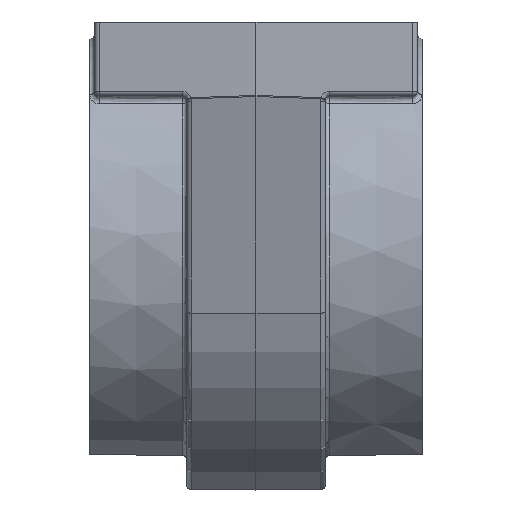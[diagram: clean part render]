
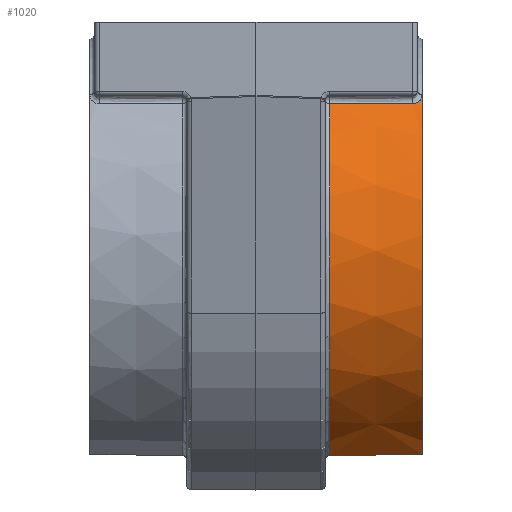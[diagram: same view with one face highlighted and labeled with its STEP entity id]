
A CAD part, left-side view. The second image highlights one B-rep face of the part: STEP entity #1020.
In plain terms, the highlighted conical face has half-angle 0.5 degrees and reference radius 46.5 mm.
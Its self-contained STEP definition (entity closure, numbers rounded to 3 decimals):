
#8 = DIRECTION ( 'NONE',  ( 0., 1., 0. ) ) ;
#89 = CARTESIAN_POINT ( 'NONE',  ( -33.366, -18.658, -11.696 ) ) ;
#128 = CARTESIAN_POINT ( 'NONE',  ( -31.13, -35.991, -9.74 ) ) ;
#132 = EDGE_CURVE ( 'NONE', #383, #3972, #3775, .T. ) ;
#282 = VERTEX_POINT ( 'NONE', #760 ) ;
#344 = VERTEX_POINT ( 'NONE', #2723 ) ;
#370 = EDGE_CURVE ( 'NONE', #282, #3314, #1406, .T. ) ;
#383 = VERTEX_POINT ( 'NONE', #2125 ) ;
#385 = DIRECTION ( 'NONE',  ( 0., -1., 0. ) ) ;
#416 = CARTESIAN_POINT ( 'NONE',  ( -33.197, -32.658, -11.697 ) ) ;
#427 = CARTESIAN_POINT ( 'NONE',  ( -32.046, -35.807, -10.591 ) ) ;
#448 = CARTESIAN_POINT ( 'NONE',  ( -32.9, -35.023, -11.423 ) ) ;
#475 = CARTESIAN_POINT ( 'NONE',  ( -32.653, -35.353, -11.18 ) ) ;
#476 = CARTESIAN_POINT ( 'NONE',  ( 0., -15.991, -44. ) ) ;
#486 = CARTESIAN_POINT ( 'NONE',  ( -33.205, -31.991, -11.697 ) ) ;
#565 = CARTESIAN_POINT ( 'NONE',  ( -15.088, -15.991, -87.947 ) ) ;
#631 = ORIENTED_EDGE ( 'NONE', *, *, #2325, .T. ) ;
#635 = DIRECTION ( 'NONE',  ( 0., 1., 0. ) ) ;
#697 = FACE_OUTER_BOUND ( 'NONE', #2113, .T. ) ;
#760 = CARTESIAN_POINT ( 'NONE',  ( -33.181, -33.991, -11.698 ) ) ;
#806 = CARTESIAN_POINT ( 'NONE',  ( -33.158, -34.313, -11.678 ) ) ;
#819 = CARTESIAN_POINT ( 'NONE',  ( -33.398, -15.991, -11.695 ) ) ;
#855 = CARTESIAN_POINT ( 'NONE',  ( -15.029, -29.33, -87.844 ) ) ;
#1020 = ADVANCED_FACE ( 'NONE', ( #697 ), #2816, .T. ) ;
#1149 = CARTESIAN_POINT ( 'NONE',  ( 0., -35.991, -44. ) ) ;
#1153 = VERTEX_POINT ( 'NONE', #128 ) ;
#1172 = CARTESIAN_POINT ( 'NONE',  ( -33.237, -29.325, -11.697 ) ) ;
#1377 = DIRECTION ( 'NONE',  ( 0., 0., -1. ) ) ;
#1406 = B_SPLINE_CURVE_WITH_KNOTS ( 'NONE', 3,
 ( #1785, #1805, #416, #486, #1172, #3105, #1734, #3087, #89, #819 ),
 .UNSPECIFIED., .F., .F.,
 ( 4, 3, 3, 4 ),
 ( 0., 0.002, 0.01, 0.018 ),
 .UNSPECIFIED. ) ;
#1444 = DIRECTION ( 'NONE',  ( 0., -1., 0. ) ) ;
#1457 = CARTESIAN_POINT ( 'NONE',  ( -31.598, -35.956, -10.169 ) ) ;
#1460 = CARTESIAN_POINT ( 'NONE',  ( -33.398, -15.991, -11.695 ) ) ;
#1497 = CARTESIAN_POINT ( 'NONE',  ( -33.181, -33.991, -11.698 ) ) ;
#1587 = CARTESIAN_POINT ( 'NONE',  ( -15.059, -22.661, -87.896 ) ) ;
#1602 = EDGE_CURVE ( 'NONE', #282, #1153, #2503, .T. ) ;
#1734 = CARTESIAN_POINT ( 'NONE',  ( -33.302, -23.992, -11.696 ) ) ;
#1773 = CARTESIAN_POINT ( 'NONE',  ( -32.559, -35.447, -11.088 ) ) ;
#1785 = CARTESIAN_POINT ( 'NONE',  ( -33.181, -33.991, -11.698 ) ) ;
#1788 = ORIENTED_EDGE ( 'NONE', *, *, #370, .T. ) ;
#1805 = CARTESIAN_POINT ( 'NONE',  ( -33.189, -33.325, -11.697 ) ) ;
#1837 = CARTESIAN_POINT ( 'NONE',  ( -32.823, -35.14, -11.348 ) ) ;
#1844 = ORIENTED_EDGE ( 'NONE', *, *, #3481, .T. ) ;
#1895 = ORIENTED_EDGE ( 'NONE', *, *, #1602, .F. ) ;
#2002 = EDGE_CURVE ( 'NONE', #3261, #1153, #4040, .T. ) ;
#2042 = CIRCLE ( 'NONE', #3001, 46.465 ) ;
#2059 = DIRECTION ( 'NONE',  ( 0., 0., -1. ) ) ;
#2113 = EDGE_LOOP ( 'NONE', ( #2986, #1844, #3676, #1895, #1788, #631, #3647 ) ) ;
#2116 = CARTESIAN_POINT ( 'NONE',  ( -31.13, -35.991, -9.74 ) ) ;
#2125 = CARTESIAN_POINT ( 'NONE',  ( -14.999, -36., -87.793 ) ) ;
#2185 = CARTESIAN_POINT ( 'NONE',  ( 0., -12., 2.5 ) ) ;
#2325 = EDGE_CURVE ( 'NONE', #3314, #344, #2042, .T. ) ;
#2454 = EDGE_CURVE ( 'NONE', #383, #344, #3531, .T. ) ;
#2503 = B_SPLINE_CURVE_WITH_KNOTS ( 'NONE', 3,
 ( #1497, #2738, #806, #3466, #4058, #448, #1837, #475, #1773, #3146, #427, #1457, #3052, #2116 ),
 .UNSPECIFIED., .F., .F.,
 ( 4, 2, 2, 2, 2, 2, 4 ),
 ( 0., 0., 0.001, 0.001, 0.002, 0.003, 0.004 ),
 .UNSPECIFIED. ) ;
#2555 = CARTESIAN_POINT ( 'NONE',  ( -14.999, -36., -87.793 ) ) ;
#2723 = CARTESIAN_POINT ( 'NONE',  ( -15.088, -15.991, -87.947 ) ) ;
#2738 = CARTESIAN_POINT ( 'NONE',  ( -33.179, -34.153, -11.698 ) ) ;
#2816 = CONICAL_SURFACE ( 'NONE', #3926, 46.5, 0.009 ) ;
#2878 = CARTESIAN_POINT ( 'NONE',  ( 0., -36., 2.291 ) ) ;
#2886 = VECTOR ( 'NONE', #3151, 1000. ) ;
#2935 = DIRECTION ( 'NONE',  ( 0., 0., 1. ) ) ;
#2986 = ORIENTED_EDGE ( 'NONE', *, *, #132, .T. ) ;
#3001 = AXIS2_PLACEMENT_3D ( 'NONE', #476, #385, #4097 ) ;
#3052 = CARTESIAN_POINT ( 'NONE',  ( -31.367, -35.991, -9.956 ) ) ;
#3087 = CARTESIAN_POINT ( 'NONE',  ( -33.334, -21.325, -11.696 ) ) ;
#3105 = CARTESIAN_POINT ( 'NONE',  ( -33.269, -26.658, -11.697 ) ) ;
#3146 = CARTESIAN_POINT ( 'NONE',  ( -32.265, -35.691, -10.802 ) ) ;
#3149 = AXIS2_PLACEMENT_3D ( 'NONE', #4018, #8, #1377 ) ;
#3151 = DIRECTION ( 'NONE',  ( 0., 1., 0.009 ) ) ;
#3235 = LINE ( 'NONE', #2185, #2886 ) ;
#3261 = VERTEX_POINT ( 'NONE', #3650 ) ;
#3314 = VERTEX_POINT ( 'NONE', #1460 ) ;
#3466 = CARTESIAN_POINT ( 'NONE',  ( -33.084, -34.617, -11.606 ) ) ;
#3481 = EDGE_CURVE ( 'NONE', #3972, #3261, #3235, .T. ) ;
#3531 = B_SPLINE_CURVE_WITH_KNOTS ( 'NONE', 3,
 ( #2555, #855, #1587, #565 ),
 .UNSPECIFIED., .F., .F.,
 ( 4, 4 ),
 ( 0., 0.02 ),
 .UNSPECIFIED. ) ;
#3582 = CARTESIAN_POINT ( 'NONE',  ( 0., -12., -44. ) ) ;
#3647 = ORIENTED_EDGE ( 'NONE', *, *, #2454, .F. ) ;
#3650 = CARTESIAN_POINT ( 'NONE',  ( 0., -35.991, 2.291 ) ) ;
#3676 = ORIENTED_EDGE ( 'NONE', *, *, #2002, .T. ) ;
#3775 = CIRCLE ( 'NONE', #3149, 46.291 ) ;
#3926 = AXIS2_PLACEMENT_3D ( 'NONE', #3582, #635, #2935 ) ;
#3970 = AXIS2_PLACEMENT_3D ( 'NONE', #1149, #1444, #2059 ) ;
#3972 = VERTEX_POINT ( 'NONE', #2878 ) ;
#4018 = CARTESIAN_POINT ( 'NONE',  ( 0., -36., -44. ) ) ;
#4040 = CIRCLE ( 'NONE', #3970, 46.291 ) ;
#4058 = CARTESIAN_POINT ( 'NONE',  ( -33.031, -34.759, -11.553 ) ) ;
#4097 = DIRECTION ( 'NONE',  ( 0., 0., -1. ) ) ;
